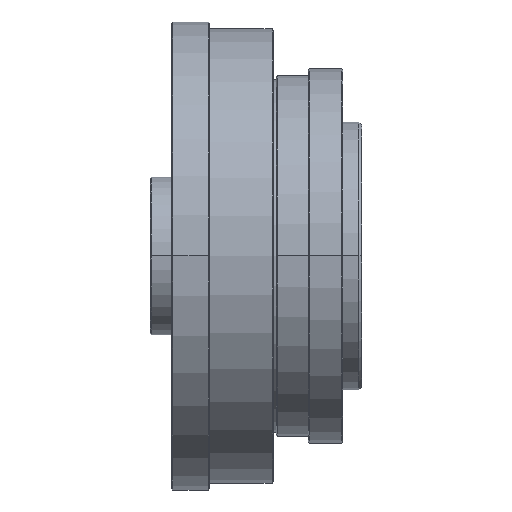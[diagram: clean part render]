
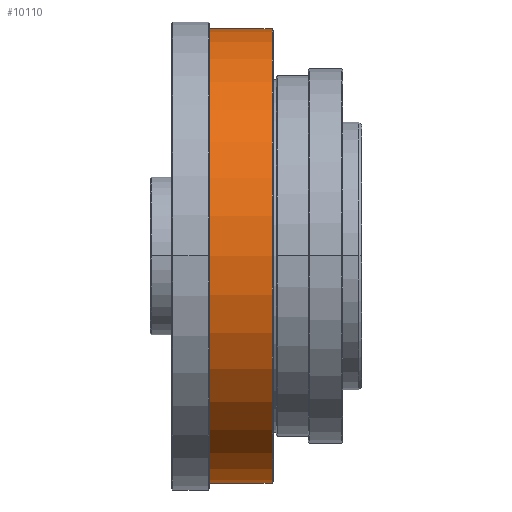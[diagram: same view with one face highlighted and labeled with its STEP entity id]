
A CAD part, top view. The second image highlights one B-rep face of the part: STEP entity #10110.
In plain terms, the highlighted cylindrical face has radius 85 mm (diameter 170 mm), a partial arc.
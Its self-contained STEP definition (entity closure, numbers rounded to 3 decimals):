
#1058 = CARTESIAN_POINT ( 'NONE',  ( -61.485, -85., 0. ) ) ;
#1095 = VERTEX_POINT ( 'NONE', #20361 ) ;
#1491 = ORIENTED_EDGE ( 'NONE', *, *, #8481, .T. ) ;
#2119 = EDGE_CURVE ( 'NONE', #1095, #16110, #21059, .T. ) ;
#2629 = CARTESIAN_POINT ( 'NONE',  ( -33.485, -85., 0. ) ) ;
#2633 = AXIS2_PLACEMENT_3D ( 'NONE', #20849, #3537, #11261 ) ;
#3537 = DIRECTION ( 'NONE',  ( 1., 0., 0. ) ) ;
#4442 = ORIENTED_EDGE ( 'NONE', *, *, #20604, .F. ) ;
#5246 = AXIS2_PLACEMENT_3D ( 'NONE', #16932, #5440, #18857 ) ;
#5440 = DIRECTION ( 'NONE',  ( -1., 0., 0. ) ) ;
#5851 = VERTEX_POINT ( 'NONE', #2629 ) ;
#5862 = CARTESIAN_POINT ( 'NONE',  ( -118.299, 0., 0. ) ) ;
#7029 = EDGE_LOOP ( 'NONE', ( #1491, #23022, #17197, #4442 ) ) ;
#7909 = VECTOR ( 'NONE', #13325, 1000. ) ;
#8481 = EDGE_CURVE ( 'NONE', #5851, #16365, #23342, .T. ) ;
#8496 = LINE ( 'NONE', #13410, #7909 ) ;
#9206 = VECTOR ( 'NONE', #10357, 1000. ) ;
#10110 = ADVANCED_FACE ( 'NONE', ( #16332 ), #11289, .T. ) ;
#10357 = DIRECTION ( 'NONE',  ( -1., 0., 0. ) ) ;
#11206 = CARTESIAN_POINT ( 'NONE',  ( -118.299, 85., 0. ) ) ;
#11261 = DIRECTION ( 'NONE',  ( 0., 1., 0. ) ) ;
#11289 = CYLINDRICAL_SURFACE ( 'NONE', #14781, 85. ) ;
#13325 = DIRECTION ( 'NONE',  ( -1., 0., 0. ) ) ;
#13410 = CARTESIAN_POINT ( 'NONE',  ( -118.299, -85., 0. ) ) ;
#14272 = LINE ( 'NONE', #11206, #9206 ) ;
#14781 = AXIS2_PLACEMENT_3D ( 'NONE', #5862, #17429, #20606 ) ;
#16110 = VERTEX_POINT ( 'NONE', #1058 ) ;
#16332 = FACE_OUTER_BOUND ( 'NONE', #7029, .T. ) ;
#16365 = VERTEX_POINT ( 'NONE', #19199 ) ;
#16548 = EDGE_CURVE ( 'NONE', #16365, #1095, #14272, .T. ) ;
#16932 = CARTESIAN_POINT ( 'NONE',  ( -33.485, 0., 0. ) ) ;
#17197 = ORIENTED_EDGE ( 'NONE', *, *, #2119, .T. ) ;
#17429 = DIRECTION ( 'NONE',  ( -1., 0., 0. ) ) ;
#18857 = DIRECTION ( 'NONE',  ( 0., -1., 0. ) ) ;
#19199 = CARTESIAN_POINT ( 'NONE',  ( -33.485, 85., 0. ) ) ;
#20361 = CARTESIAN_POINT ( 'NONE',  ( -61.485, 85., 0. ) ) ;
#20604 = EDGE_CURVE ( 'NONE', #5851, #16110, #8496, .T. ) ;
#20606 = DIRECTION ( 'NONE',  ( 0., -1., 0. ) ) ;
#20849 = CARTESIAN_POINT ( 'NONE',  ( -61.485, 0., 0. ) ) ;
#21059 = CIRCLE ( 'NONE', #2633, 85. ) ;
#23022 = ORIENTED_EDGE ( 'NONE', *, *, #16548, .T. ) ;
#23342 = CIRCLE ( 'NONE', #5246, 85. ) ;
